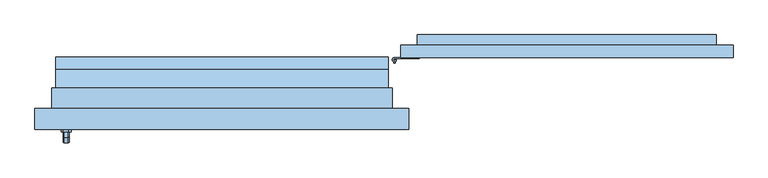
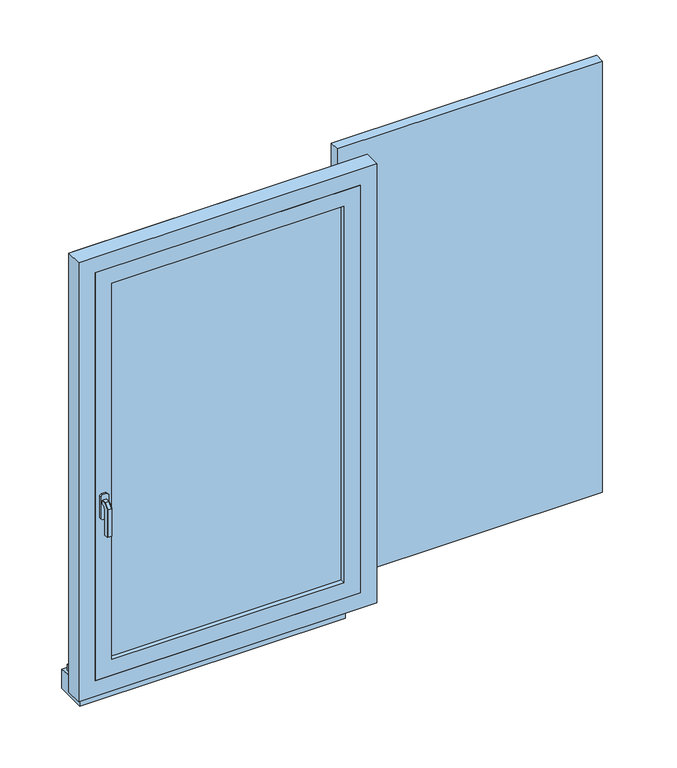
"""IFC4 building model written with IfcOpenShell, lengths in millimetres: window geometry, 1 Vantail droit - Volet et petits bois : 0.80m x 1.35m - Appui Béton."""

from ifc_helpers import new_model, si_unit, point, frame, frame_2d, origin, place, context, project, spatial, polyline, circle_curve, trimmed, segment, composite_curve, outline, extrude, faceted_brep, source, transform, mapped, element, save
from ifc_brep_helpers import plane_surface, cylinder_surface, advanced_brep


def window_f6eb430b(model_context):
    return source(origin(), model_context, "Body", "SolidModel", [
        extrude(outline(polyline([(1230.0, 93.0), (430.0, 93.0), (430.0, 123.0), (1230.0, 123.0), (1230.0, 93.0)])), frame((0.0, 0.0, 775.0), z_axis=(0.0, 0.0, 1.0), x_axis=(1.0, 0.0, 0.0)), (0.0, 0.0, 1.0), 1375.0),
        advanced_brep(
        [(410.0, 88.0, 975.0), (420.0, 88.0, 975.0), (410.0, 88.0, 950.0), (420.0, 88.0, 950.0), (417.0, 83.4174243, 955.0), (413.0, 83.4174243, 955.0), (413.0, 83.4174243, 965.0), (417.0, 83.4174243, 965.0), (413.0, 80.0, 965.0), (417.0, 80.0, 965.0), (417.0, 80.0, 955.0), (413.0, 80.0, 955.0)],
        [
            (0, 1, circle_curve(frame((415.0, 88.0, 975.0), z_axis=(0.0, 0.0, 1.0), x_axis=(1.0, 0.0, 0.0)), 5.0)),
            (1, 0, circle_curve(frame((415.0, 88.0, 975.0), z_axis=(0.0, 0.0, 1.0), x_axis=(1.0, 0.0, 0.0)), 5.0)),
            (2, 3, circle_curve(frame((415.0, 88.0, 950.0), z_axis=(0.0, 0.0, -1.0), x_axis=(1.0, 0.0, 0.0)), 5.0)),
            (3, 2, circle_curve(frame((415.0, 88.0, 950.0), z_axis=(0.0, 0.0, -1.0), x_axis=(1.0, 0.0, 0.0)), 5.0)),
            (0, 2),
            (3, 1),
            (4, 5, circle_curve(frame((415.0, 88.0, 955.0), z_axis=(0.0, 0.0, -1.0), x_axis=(1.0, 0.0, 0.0)), 5.0)),
            (5, 6),
            (6, 7, circle_curve(frame((415.0, 88.0, 965.0), z_axis=(0.0, 0.0, 1.0), x_axis=(1.0, 0.0, 0.0)), 5.0)),
            (7, 4),
            (8, 9),
            (9, 7),
            (6, 8),
            (10, 11),
            (11, 5),
            (4, 10),
            (9, 10),
            (11, 8),
        ],
        [
            plane_surface(frame((420.0, 88.0, 975.0), z_axis=(0.0, 0.0, 1.0), x_axis=(0.0, 1.0, 0.0))),
            plane_surface(frame((420.0, 88.0, 950.0), z_axis=(0.0, 0.0, -1.0), x_axis=(0.0, -1.0, 0.0))),
            cylinder_surface(frame((415.0, 88.0, 950.0), z_axis=(0.0, 0.0, 1.0), x_axis=(1.0, 0.0, 0.0)), 5.0),
            plane_surface(frame((417.0, 80.0, 965.0), z_axis=(0.0, 0.0, 1.0), x_axis=(0.0, 1.0, 0.0))),
            plane_surface(frame((417.0, 80.0, 955.0), z_axis=(0.0, 0.0, -1.0), x_axis=(0.0, -1.0, 0.0))),
            plane_surface(frame((417.0, 80.0, 965.0), z_axis=(1.0, 0.0, 0.0), x_axis=(0.0, 0.0, -1.0))),
            plane_surface(frame((413.0, 85.0, 965.0), z_axis=(-1.0, 0.0, 0.0), x_axis=(0.0, 0.0, -1.0))),
            plane_surface(frame((413.0, 80.0, 965.0), z_axis=(0.0, -1.0, 0.0), x_axis=(0.0, 0.0, -1.0))),
        ],
        [
            (0, [[1, 2]]),
            (1, [[3, 4]]),
            (2, [[-1, 5, -4, 6], [7, 8, 9, 10]]),
            (2, [[-2, -6, -3, -5]]),
            (3, [[11, 12, -9, 13]]),
            (4, [[14, 15, -7, 16]]),
            (5, [[17, -16, -10, -12]]),
            (6, [[18, -13, -8, -15]]),
            (7, [[-11, -18, -14, -17]]),
        ],
    ),
        extrude(outline(composite_curve([segment(polyline([(415.0, 93.0), (474.3092325, 93.0), (474.3092325, 90.5), (415.0, 90.5)]), True, "CONTINUOUS"), segment(trimmed(circle_curve(frame_2d((415.0, 88.0)), 2.5), [point((415.0, 90.5))], [point((417.5, 88.0))], True, "CARTESIAN"), True, "CONTINUOUS"), segment(polyline([(417.5, 88.0), (420.0, 88.0)]), True, "CONTINUOUS"), segment(trimmed(circle_curve(frame_2d((415.0, 88.0)), 5.0), [point((420.0, 88.0))], [point((415.0, 93.0))], False, "CARTESIAN"), True, "CONTINUOUS")], self_intersect=False)), frame((0.0, 0.0, 975.0), z_axis=(0.0, 0.0, 1.0), x_axis=(1.0, 0.0, 0.0)), (0.0, 0.0, 1.0), 25.0),
        extrude(outline(composite_curve([segment(trimmed(circle_curve(frame_2d((415.0, 88.0)), 2.5), [point((412.5, 88.0))], [point((417.5, 88.0))], False, "CARTESIAN"), True, "CONTINUOUS"), segment(trimmed(circle_curve(frame_2d((415.0, 88.0)), 2.5), [point((417.5, 88.0))], [point((412.5, 88.0))], False, "CARTESIAN"), True, "CONTINUOUS")], self_intersect=False)), frame((0.0, 0.0, 975.0), z_axis=(0.0, 0.0, 1.0), x_axis=(1.0, 0.0, 0.0)), (0.0, 0.0, 1.0), 25.0),
        advanced_brep(
        [(410.0, 88.0, 1950.0), (420.0, 88.0, 1950.0), (410.0, 88.0, 1925.0), (420.0, 88.0, 1925.0), (413.0, 83.4174243, 1940.0), (417.0, 83.4174243, 1940.0), (417.0, 83.4174243, 1930.0), (413.0, 83.4174243, 1930.0), (413.0, 80.0, 1940.0), (417.0, 80.0, 1940.0), (413.0, 80.0, 1930.0), (417.0, 80.0, 1930.0)],
        [
            (0, 1, circle_curve(frame((415.0, 88.0, 1950.0), z_axis=(0.0, 0.0, 1.0), x_axis=(1.0, 0.0, 0.0)), 5.0)),
            (1, 0, circle_curve(frame((415.0, 88.0, 1950.0), z_axis=(0.0, 0.0, 1.0), x_axis=(1.0, 0.0, 0.0)), 5.0)),
            (2, 3, circle_curve(frame((415.0, 88.0, 1925.0), z_axis=(0.0, 0.0, -1.0), x_axis=(1.0, 0.0, 0.0)), 5.0)),
            (3, 2, circle_curve(frame((415.0, 88.0, 1925.0), z_axis=(0.0, 0.0, -1.0), x_axis=(1.0, 0.0, 0.0)), 5.0)),
            (0, 2),
            (3, 1),
            (4, 5, circle_curve(frame((415.0, 88.0, 1940.0), z_axis=(0.0, 0.0, 1.0), x_axis=(1.0, 0.0, 0.0)), 5.0)),
            (5, 6),
            (6, 7, circle_curve(frame((415.0, 88.0, 1930.0), z_axis=(0.0, 0.0, -1.0), x_axis=(1.0, 0.0, 0.0)), 5.0)),
            (7, 4),
            (8, 9),
            (9, 5),
            (4, 8),
            (10, 7),
            (6, 11),
            (11, 10),
            (8, 10),
            (11, 9),
        ],
        [
            plane_surface(frame((420.0, 88.0, 1950.0), z_axis=(0.0, 0.0, 1.0), x_axis=(0.0, 1.0, 0.0))),
            plane_surface(frame((420.0, 88.0, 1925.0), z_axis=(0.0, 0.0, -1.0), x_axis=(0.0, -1.0, 0.0))),
            cylinder_surface(frame((415.0, 88.0, 1925.0), z_axis=(0.0, 0.0, 1.0), x_axis=(1.0, 0.0, 0.0)), 5.0),
            plane_surface(frame((413.0, 80.0, 1940.0), z_axis=(0.0, 0.0, 1.0), x_axis=(1.0, 0.0, 0.0))),
            plane_surface(frame((413.0, 80.0, 1930.0), z_axis=(0.0, 0.0, -1.0), x_axis=(-1.0, 0.0, 0.0))),
            plane_surface(frame((413.0, 80.0, 1940.0), z_axis=(0.0, -1.0, 0.0), x_axis=(0.0, 0.0, -1.0))),
            plane_surface(frame((417.0, 80.0, 1940.0), z_axis=(1.0, 0.0, 0.0), x_axis=(0.0, 0.0, -1.0))),
            plane_surface(frame((413.0, 83.4174243, 1940.0), z_axis=(-1.0, 0.0, 0.0), x_axis=(0.0, 0.0, -1.0))),
        ],
        [
            (0, [[1, 2]]),
            (1, [[3, 4]]),
            (2, [[-1, 5, -4, 6], [7, 8, 9, 10]]),
            (2, [[-2, -6, -3, -5]]),
            (3, [[11, 12, -7, 13]]),
            (4, [[14, -9, 15, 16]]),
            (5, [[-11, 17, -16, 18]]),
            (6, [[-12, -18, -15, -8]]),
            (7, [[-13, -10, -14, -17]]),
        ],
    ),
        extrude(outline(polyline([(413.0, 80.0), (413.0, 83.4174243), (417.0, 83.4174243), (417.0, 80.0), (413.0, 80.0)])), frame((0.0, 0.0, 1442.5), z_axis=(0.0, 0.0, 1.0), x_axis=(1.0, 0.0, 0.0)), (0.0, 0.0, 1.0), 10.0),
        extrude(outline(composite_curve([segment(polyline([(415.0, 93.0), (474.3092325, 93.0), (474.3092325, 90.5), (415.0, 90.5)]), True, "CONTINUOUS"), segment(trimmed(circle_curve(frame_2d((415.0, 88.0)), 2.5), [point((415.0, 90.5))], [point((412.5, 88.0))], True, "CARTESIAN"), True, "CONTINUOUS"), segment(trimmed(circle_curve(frame_2d((415.0, 88.0)), 2.5), [point((412.5, 88.0))], [point((417.5, 88.0))], True, "CARTESIAN"), True, "CONTINUOUS"), segment(polyline([(417.5, 88.0), (420.0, 88.0)]), True, "CONTINUOUS"), segment(trimmed(circle_curve(frame_2d((415.0, 88.0)), 5.0), [point((420.0, 88.0))], [point((415.0, 93.0))], False, "CARTESIAN"), True, "CONTINUOUS")], self_intersect=False)), frame((0.0, 0.0, 1462.5), z_axis=(0.0, 0.0, 1.0), x_axis=(1.0, 0.0, 0.0)), (0.0, 0.0, 1.0), 25.0),
        extrude(outline(composite_curve([segment(trimmed(circle_curve(frame_2d((415.0, 88.0)), 2.5), [point((412.5, 88.0))], [point((417.5, 88.0))], False, "CARTESIAN"), True, "CONTINUOUS"), segment(trimmed(circle_curve(frame_2d((415.0, 88.0)), 2.5), [point((417.5, 88.0))], [point((412.5, 88.0))], False, "CARTESIAN"), True, "CONTINUOUS")], self_intersect=False)), frame((0.0, 0.0, 1462.5), z_axis=(0.0, 0.0, 1.0), x_axis=(1.0, 0.0, 0.0)), (0.0, 0.0, 1.0), 25.0),
        extrude(outline(composite_curve([segment(trimmed(circle_curve(frame_2d((415.0, 88.0)), 5.0), [point((410.0, 88.0))], [point((420.0, 88.0))], False, "CARTESIAN"), True, "CONTINUOUS"), segment(trimmed(circle_curve(frame_2d((415.0, 88.0)), 5.0), [point((420.0, 88.0))], [point((410.0, 88.0))], False, "CARTESIAN"), True, "CONTINUOUS")], self_intersect=False)), frame((0.0, 0.0, 1437.5), z_axis=(0.0, 0.0, 1.0), x_axis=(1.0, 0.0, 0.0)), (0.0, 0.0, 1.0), 25.0),
        extrude(outline(composite_curve([segment(polyline([(415.0, 93.0), (474.3092325, 93.0), (474.3092325, 90.5), (415.0, 90.5)]), True, "CONTINUOUS"), segment(trimmed(circle_curve(frame_2d((415.0, 88.0)), 2.5), [point((415.0, 90.5))], [point((417.5, 88.0))], True, "CARTESIAN"), True, "CONTINUOUS"), segment(polyline([(417.5, 88.0), (420.0, 88.0)]), True, "CONTINUOUS"), segment(trimmed(circle_curve(frame_2d((415.0, 88.0)), 5.0), [point((420.0, 88.0))], [point((415.0, 93.0))], False, "CARTESIAN"), True, "CONTINUOUS")], self_intersect=False)), frame((0.0, 0.0, 1950.0), z_axis=(0.0, 0.0, 1.0), x_axis=(1.0, 0.0, 0.0)), (0.0, 0.0, 1.0), 25.0),
        extrude(outline(composite_curve([segment(trimmed(circle_curve(frame_2d((415.0, 88.0)), 2.5), [point((412.5, 88.0))], [point((417.5, 88.0))], False, "CARTESIAN"), True, "CONTINUOUS"), segment(trimmed(circle_curve(frame_2d((415.0, 88.0)), 2.5), [point((417.5, 88.0))], [point((412.5, 88.0))], False, "CARTESIAN"), True, "CONTINUOUS")], self_intersect=False)), frame((0.0, 0.0, 1950.0), z_axis=(0.0, 0.0, 1.0), x_axis=(1.0, 0.0, 0.0)), (0.0, 0.0, 1.0), 25.0),
        extrude(outline(polyline([(1910.0, 1190.0), (1910.0, 1092.5496543), (1015.0, 470.0007252), (1015.0, 567.4510709), (1910.0, 1190.0)])), frame((0.0, 123.0, 0.0), z_axis=(0.0, 1.0, 0.0), x_axis=(0.0, 0.0, 1.0)), (0.0, 0.0, 1.0), 25.0),
        extrude(outline(polyline([(470.0, 148.0), (1190.0, 148.0), (1190.0, 123.0), (470.0, 123.0), (470.0, 148.0)])), frame((0.0, 0.0, 1910.0), z_axis=(0.0, 0.0, 1.0), x_axis=(1.0, 0.0, 0.0)), (0.0, 0.0, 1.0), 80.0),
        extrude(outline(polyline([(470.0, 148.0), (1190.0, 148.0), (1190.0, 123.0), (470.0, 123.0), (470.0, 148.0)])), frame((0.0, 0.0, 935.0), z_axis=(0.0, 0.0, 1.0), x_axis=(1.0, 0.0, 0.0)), (0.0, 0.0, 1.0), 80.0),
        faceted_brep([(-369.3539903, -86.0, 1422.0339292), (-367.9660708, -86.0, 1420.6460097), (-367.9660708, -86.0, 1409.3323012), (-369.3323012, -86.0, 1407.9660708), (-380.6676988, -86.0, 1407.9660708), (-382.0339292, -86.0, 1409.3323012), (-382.0339292, -86.0, 1420.6460097), (-380.6460097, -86.0, 1422.0339292), (-369.3539903, -98.9135489, 1422.0339292), (-367.9660708, -98.3386538, 1420.6460097), (-367.9660708, -111.6460097, 1407.3386538), (-367.9660708, -111.6460097, 1320.0), (-367.9660708, -100.3323012, 1320.0), (-367.9660708, -100.3323012, 1402.6523623), (-367.9660708, -93.6523623, 1409.3323012), (-369.3323012, -93.0864511, 1407.9660708), (-380.6676988, -93.0864511, 1407.9660708), (-382.0339292, -93.6523623, 1409.3323012), (-382.0339292, -100.3323012, 1402.6523623), (-382.0339292, -100.3323012, 1320.0), (-382.0339292, -111.6460097, 1320.0), (-382.0339292, -111.6460097, 1407.3386538), (-382.0339292, -98.3386538, 1420.6460097), (-380.6460097, -98.9135489, 1422.0339292), (-369.3539903, -113.0339292, 1407.9135489), (-369.3323012, -98.9660708, 1402.0864511), (-380.6676988, -98.9660708, 1402.0864511), (-380.6460097, -113.0339292, 1407.9135489), (-369.3539903, -113.0339292, 1320.0), (-380.6460097, -113.0339292, 1320.0), (-380.6676988, -98.9660708, 1320.0), (-369.3323012, -98.9660708, 1320.0)], [[[0, 1, 2, 3, 4, 5, 6, 7]], [[1, 0, 8, 9]], [[2, 1, 9, 10, 11, 12, 13, 14]], [[3, 2, 14, 15]], [[4, 3, 15, 16]], [[5, 4, 16, 17]], [[6, 5, 17, 18, 19, 20, 21, 22]], [[7, 6, 22, 23]], [[0, 7, 23, 8]], [[9, 8, 24, 10]], [[15, 14, 13, 25]], [[16, 15, 25, 26]], [[17, 16, 26, 18]], [[23, 22, 21, 27]], [[8, 23, 27, 24]], [[28, 29, 20, 19, 30, 31, 12, 11]], [[10, 24, 28, 11]], [[25, 13, 12, 31]], [[26, 25, 31, 30]], [[18, 26, 30, 19]], [[27, 21, 20, 29]], [[24, 27, 29, 28]]]),
        extrude(outline(polyline([(1440.0, -368.0), (1440.0, -382.0), (1435.0, -387.0), (1365.0, -387.0), (1360.0, -382.0), (1360.0, -368.0), (1365.0, -363.0), (1435.0, -363.0), (1440.0, -368.0)])), frame((0.0, -86.0, 0.0), z_axis=(0.0, 1.0, 0.0), x_axis=(0.0, 0.0, 1.0)), (0.0, 0.0, 1.0), 6.0),
        extrude(outline(polyline([(0.0, 800.0), (50.0, 800.0), (50.0, 785.0), (95.0, 780.2703094), (95.0, 720.0), (0.0, 720.0), (0.0, 800.0)])), frame((-400.0, 0.0, 0.0), z_axis=(1.0, 0.0, 0.0), x_axis=(0.0, 1.0, 0.0)), (0.0, 0.0, 1.0), 800.0),
        extrude(outline(polyline([(-350.0, -54.0), (350.0, -54.0), (350.0, -66.0), (-350.0, -66.0), (-350.0, -54.0)])), frame((0.0, 0.0, 900.0), z_axis=(0.0, 0.0, 1.0), x_axis=(1.0, 0.0, 0.0)), (0.0, 0.0, 1.0), 1200.0),
        extrude(outline(polyline([(850.0, 400.0), (2150.0, 400.0), (2150.0, -400.0), (850.0, -400.0), (850.0, 400.0)]), holes=[polyline([(900.0, -350.0), (2100.0, -350.0), (2100.0, 350.0), (900.0, 350.0), (900.0, -350.0)])]), frame((0.0, -80.0, 0.0), z_axis=(0.0, 1.0, 0.0), x_axis=(0.0, 0.0, 1.0)), (0.0, 0.0, 1.0), 40.0),
        faceted_brep([(-450.0, -80.0, 800.0), (-450.0, -30.0, 800.0), (-400.0, -30.0, 800.0), (-400.0, 55.0, 800.0), (400.0, 55.0, 800.0), (400.0, -30.0, 800.0), (450.0, -30.0, 800.0), (450.0, -80.0, 800.0), (-450.0, -80.0, 2200.0), (-450.0, -30.0, 2200.0), (450.0, -30.0, 2200.0), (400.0, -30.0, 839.3761425), (-400.0, -30.0, 839.3761425), (-385.0, -30.0, 2135.0), (-385.0, -30.0, 865.0), (385.0, -30.0, 865.0), (385.0, -30.0, 2135.0), (-400.0, 65.0, 813.9209692), (-400.0, 65.0, 795.0), (-400.0, 55.0, 795.0), (400.0, 55.0, 795.0), (400.0, 65.0, 795.0), (400.0, 65.0, 813.9209692), (450.0, -80.0, 2200.0), (400.0, -80.0, 2150.0), (400.0, -80.0, 850.0), (-400.0, -80.0, 850.0), (-400.0, -80.0, 2150.0), (-385.0, -40.0, 2135.0), (-385.0, -40.0, 865.0), (385.0, -40.0, 865.0), (385.0, -40.0, 2135.0), (400.0, -40.0, 2150.0), (-400.0, -40.0, 2150.0), (-400.0, -40.0, 850.0), (400.0, -40.0, 850.0)], [[[0, 1, 2, 3, 4, 5, 6, 7]], [[1, 0, 8, 9]], [[1, 9, 10, 6, 5, 11, 12, 2], [13, 14, 15, 16]], [[12, 17, 18, 19, 3, 2]], [[3, 19, 20, 4]], [[4, 20, 21, 22, 11, 5]], [[6, 10, 23, 7]], [[0, 7, 23, 8], [24, 25, 26, 27]], [[13, 28, 29, 14]], [[29, 30, 15, 14]], [[31, 16, 15, 30]], [[17, 12, 11, 22]], [[32, 33, 34, 35], [28, 31, 30, 29]], [[34, 33, 27, 26]], [[26, 25, 35, 34]], [[24, 32, 35, 25]], [[18, 17, 22, 21]], [[19, 18, 21, 20]], [[13, 16, 31, 28]], [[33, 32, 24, 27]], [[10, 9, 8, 23]]]),
        extrude(outline(polyline([(800.0, -410.0), (800.0, -400.0), (2150.0, -400.0), (2150.0, 400.0), (800.0, 400.0), (800.0, 410.0), (2160.0, 410.0), (2160.0, -410.0), (800.0, -410.0)])), frame((0.0, -30.0, 0.0), z_axis=(0.0, 1.0, 0.0), x_axis=(0.0, 0.0, 1.0)), (0.0, 0.0, 1.0), 50.0),
    ])


if __name__ == "__main__":
    model = new_model("IFC4")
    model_context = context("Model", 3, world=origin())
    ifc_project = project(units=[si_unit("LENGTHUNIT", "METRE", prefix="MILLI")], contexts=[model_context])
    site = spatial("IfcSite", under=ifc_project)
    building = spatial("IfcBuilding", under=site)
    placement = place(None, origin())
    window_shape = window_f6eb430b(model_context)
    element("IfcWindow", 1, ObjectType="1 Vantail droit - Volet et petits bois : 0.80m x 1.35m - Appui Béton", at=placement, inside=building, context=model_context, shape_type="MappedRepresentation", body=[
        mapped(window_shape, transform((0.0, 0.0, 0.0), x_axis=(1.0, 0.0, 0.0), y_axis=(0.0, 1.0, 0.0), z_axis=(0.0, 0.0, 1.0))),
    ])
    save(model, "model.ifc")
